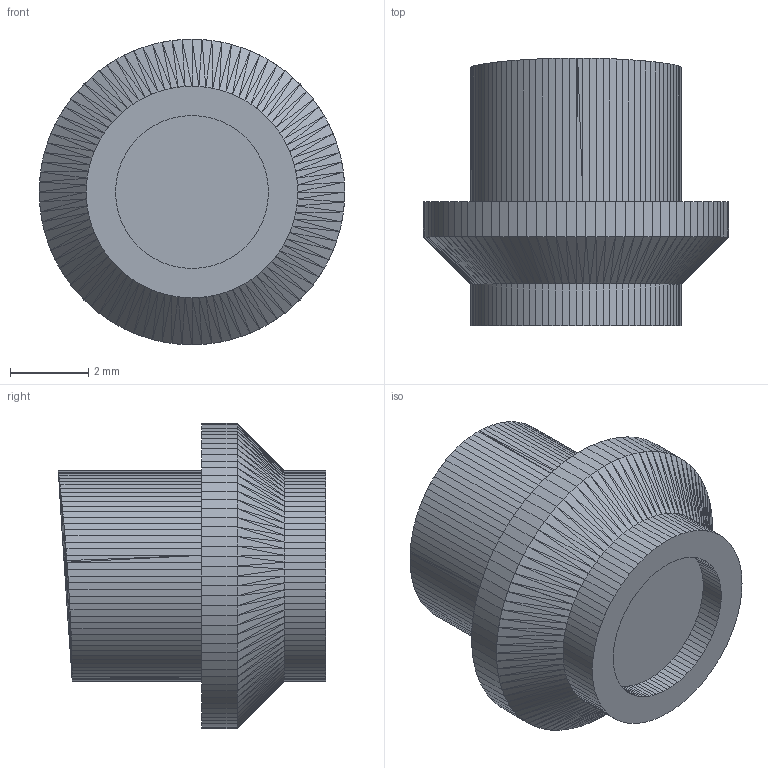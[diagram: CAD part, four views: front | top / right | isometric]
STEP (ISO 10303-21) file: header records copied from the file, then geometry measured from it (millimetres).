
FILE_DESCRIPTION(('Open CASCADE Model'),'2;1');
FILE_NAME('Open CASCADE Shape Model','2026-11-12T09:27:02',('Author'),( 'Open CASCADE'),'Open CASCADE STEP processor 7.9','Open CASCADE 7.9' ,'Unknown');
FILE_SCHEMA(('AUTOMOTIVE_DESIGN { 1 0 10303 214 1 1 1 1 }'));
Length unit declared in the file: millimetre
Products named in the file (1): Open CASCADE STEP translator 7.9 3
Bounding box: 7.8 x 6.83 x 7.8 mm (x, y, z)
Volume: 180.5 mm3; surface area: 212.5 mm2
Topology: 1 solids, 1 shells, 815 faces, 1785 edges, 975 vertices
Faces by surface type: plane 815
Entity records: 43521 total; most frequent: CARTESIAN_POINT 7819, DIRECTION 6314, LINE 4682, VECTOR 4682, ORIENTED_EDGE 3570, PCURVE 3570, DEFINITIONAL_REPRESENTATION 3570, EDGE_CURVE 1785
